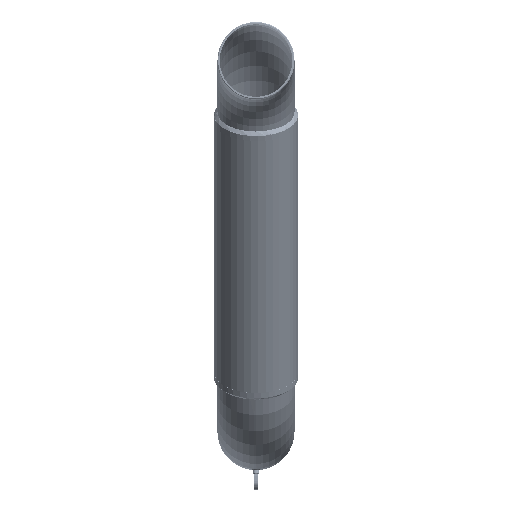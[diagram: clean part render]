
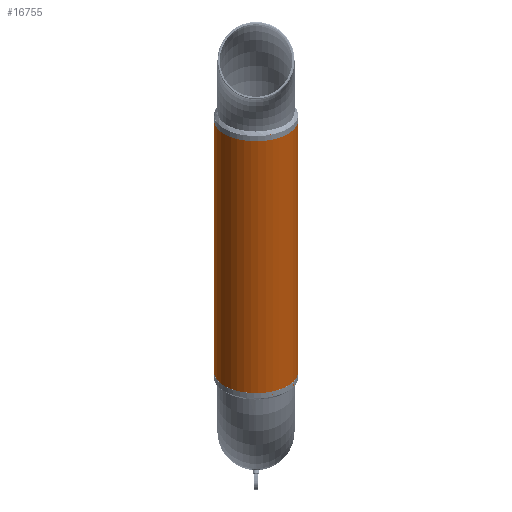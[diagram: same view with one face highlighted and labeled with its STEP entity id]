
A CAD part, front view. The second image highlights one B-rep face of the part: STEP entity #16755.
In plain terms, the highlighted cylindrical face has radius 176.276 mm (diameter 352.552 mm), a full revolution.
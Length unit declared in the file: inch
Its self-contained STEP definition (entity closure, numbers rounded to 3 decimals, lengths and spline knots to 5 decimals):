
#16728=CARTESIAN_POINT('',(0.0,0.0,0.0));
#16729=DIRECTION('',(0.0,0.0,1.0));
#16730=DIRECTION('',(-1.0,0.0,0.0));
#16731=AXIS2_PLACEMENT_3D('',#16728,#16729,#16730);
#16732=CYLINDRICAL_SURFACE('',#16731,6.94);
#16733=CARTESIAN_POINT('',(6.94,0.,49.75));
#16734=VERTEX_POINT('',#16733);
#16735=CARTESIAN_POINT('',(0.0,0.0,49.75));
#16736=DIRECTION('',(0.0,0.0,-1.0));
#16737=DIRECTION('',(-1.0,0.0,0.0));
#16738=AXIS2_PLACEMENT_3D('',#16735,#16736,#16737);
#16739=CIRCLE('',#16738,6.94);
#16740=EDGE_CURVE('',#16734,#16734,#16739,.T.);
#16741=ORIENTED_EDGE('',*,*,#16740,.T.);
#16742=EDGE_LOOP('',(#16741));
#16743=FACE_OUTER_BOUND('',#16742,.T.);
#16744=CARTESIAN_POINT('',(6.94,0.,0.0));
#16745=VERTEX_POINT('',#16744);
#16746=CARTESIAN_POINT('',(0.0,0.0,0.0));
#16747=DIRECTION('',(0.0,0.0,-1.0));
#16748=DIRECTION('',(-1.0,0.0,0.0));
#16749=AXIS2_PLACEMENT_3D('',#16746,#16747,#16748);
#16750=CIRCLE('',#16749,6.94);
#16751=EDGE_CURVE('',#16745,#16745,#16750,.T.);
#16752=ORIENTED_EDGE('',*,*,#16751,.F.);
#16753=EDGE_LOOP('',(#16752));
#16754=FACE_BOUND('',#16753,.T.);
#16755=ADVANCED_FACE('',(#16743,#16754),#16732,.T.);
